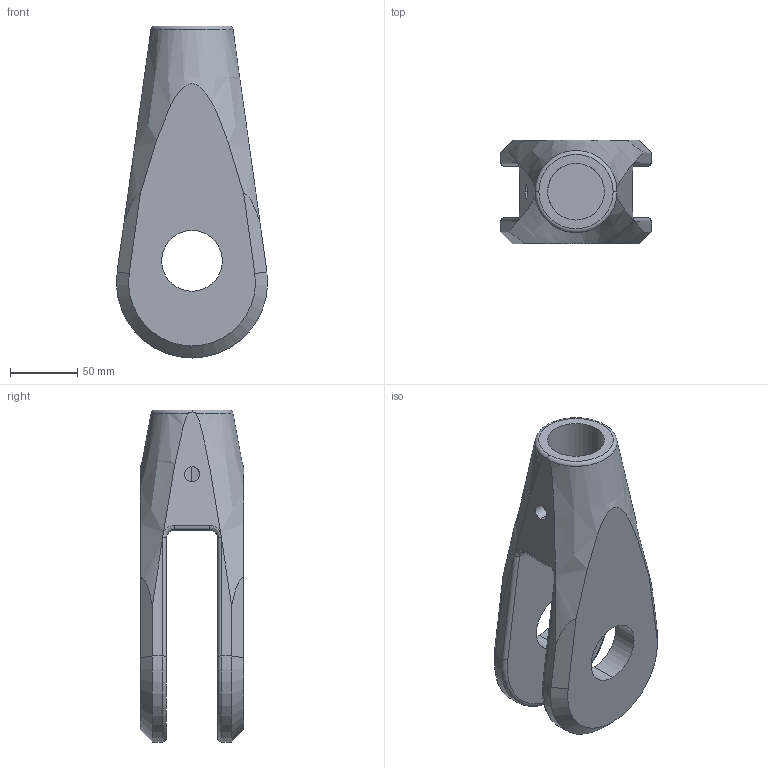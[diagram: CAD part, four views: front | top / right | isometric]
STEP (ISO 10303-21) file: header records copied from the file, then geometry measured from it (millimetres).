
FILE_DESCRIPTION (( 'STEP AP203' ), '1' );
FILE_NAME ('Gabelkopf M42.STEP', '2018-02-20T06:38:12', ( 'install' ), ( 'Hewlett-Packard Company' ), 'SwSTEP 2.0', 'SolidWorks 2017', '' );
FILE_SCHEMA (( 'CONFIG_CONTROL_DESIGN' ));
Length unit declared in the file: millimetre
Products named in the file (1): Gabelkopf M42
Bounding box: 111.94 x 76.6 x 246 mm (x, y, z)
Volume: 763988.8 mm3; surface area: 106524.1 mm2
Topology: 1 solids, 1 shells, 51 faces, 127 edges, 78 vertices
Faces by surface type: cylinder 20, plane 17, cone 5, torus 5, bspline 4
Entity records: 2131 total; most frequent: CARTESIAN_POINT 895, ORIENTED_EDGE 254, DIRECTION 230, EDGE_CURVE 127, AXIS2_PLACEMENT_3D 93, VERTEX_POINT 78, EDGE_LOOP 57, FACE_OUTER_BOUND 51
